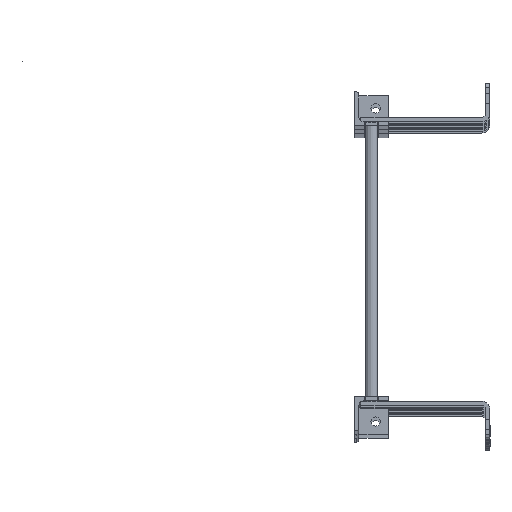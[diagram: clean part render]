
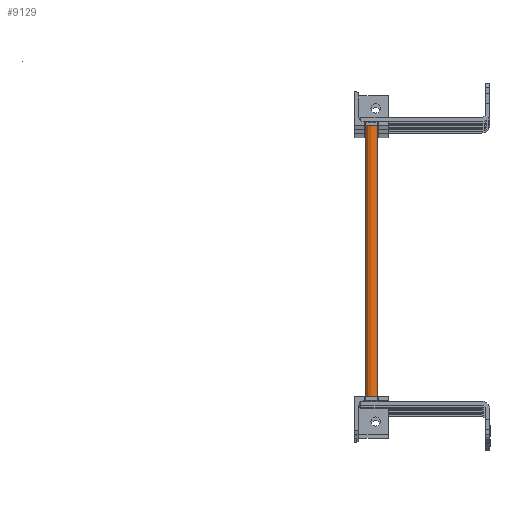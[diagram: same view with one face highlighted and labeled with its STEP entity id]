
A CAD part, top view. The second image highlights one B-rep face of the part: STEP entity #9129.
In plain terms, the highlighted cylindrical face has radius 9.525 mm (diameter 19.05 mm), a full revolution.
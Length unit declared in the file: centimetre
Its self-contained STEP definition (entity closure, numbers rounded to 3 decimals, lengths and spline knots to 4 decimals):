
#1809=FACE_BOUND('',#2671,.T.);
#2136=FACE_OUTER_BOUND('',#2670,.T.);
#2670=EDGE_LOOP('',(#5996));
#2671=EDGE_LOOP('',(#5997));
#3476=CIRCLE('',#9713,0.9525);
#3477=CIRCLE('',#9714,0.9525);
#3942=VERTEX_POINT('',#13425);
#3943=VERTEX_POINT('',#13427);
#4788=EDGE_CURVE('',#3942,#3942,#3476,.T.);
#4789=EDGE_CURVE('',#3943,#3943,#3477,.T.);
#5996=ORIENTED_EDGE('',*,*,#4788,.T.);
#5997=ORIENTED_EDGE('',*,*,#4789,.F.);
#8335=CYLINDRICAL_SURFACE('',#9712,0.9525);
#9129=ADVANCED_FACE('',(#2136,#1809),#8335,.T.);
#9712=AXIS2_PLACEMENT_3D('',#13424,#10758,#10759);
#9713=AXIS2_PLACEMENT_3D('',#13426,#10760,#10761);
#9714=AXIS2_PLACEMENT_3D('',#13428,#10762,#10763);
#10758=DIRECTION('center_axis',(0.,1.,0.));
#10759=DIRECTION('ref_axis',(-1.,0.,0.));
#10760=DIRECTION('center_axis',(0.,-1.,0.));
#10761=DIRECTION('ref_axis',(-1.,0.,0.));
#10762=DIRECTION('center_axis',(0.,-1.,0.));
#10763=DIRECTION('ref_axis',(-1.,0.,0.));
#13424=CARTESIAN_POINT('Origin',(2.54,-41.4338,-3.81));
#13425=CARTESIAN_POINT('',(3.4925,0.4762,-3.81));
#13426=CARTESIAN_POINT('Origin',(2.54,0.4762,-3.81));
#13427=CARTESIAN_POINT('',(3.4925,-41.4338,-3.81));
#13428=CARTESIAN_POINT('Origin',(2.54,-41.4338,-3.81));
